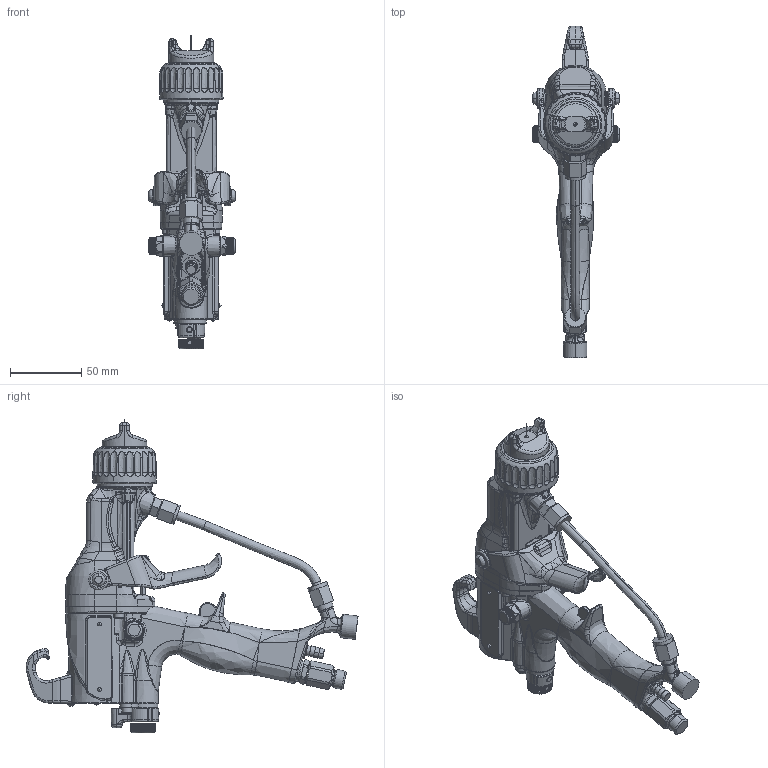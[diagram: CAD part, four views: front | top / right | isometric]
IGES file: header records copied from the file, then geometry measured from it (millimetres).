
Start section:  PTC IGES file: l40t71-en-c.igs
Global section: file name: l40t71-en-c.igs; native system: Creo Parametric by PTC Inc.; preprocessor: 2019030; author: qusrh3; organization: Unknown; date: 20200518.163518; units: inch
Bounding box: 60.96 x 233.22 x 220.34 mm (x, y, z)
Surface area: 83636.6 mm2 (no closed solid volume)
Topology: 0 solids, 0 shells, 2611 faces, 12882 edges, 12875 vertices
Faces by surface type: bspline 1382, revolution 1223, extrusion 6
